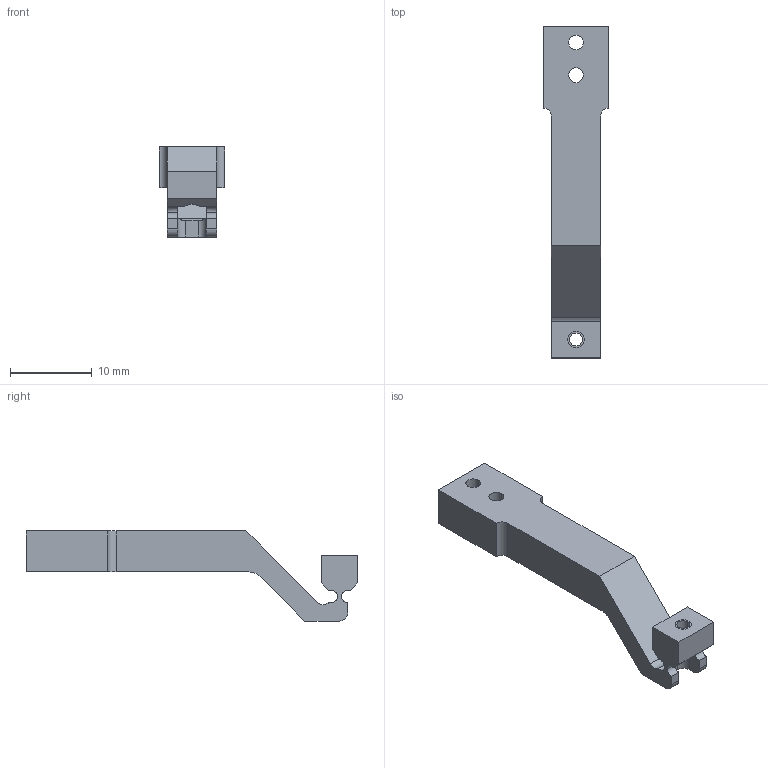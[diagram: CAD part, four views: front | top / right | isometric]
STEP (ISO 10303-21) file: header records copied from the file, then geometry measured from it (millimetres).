
FILE_DESCRIPTION(/* description */ ('VariCAD 2010-3.03 AP-214'),/* implementation_level */ '2;1');
FILE_NAME(/* name */ '0353-19-47',/* time_stamp */ '2011-01-17T15:06:12-07:00',/* author */ (''),/* organization */ (''),/* preprocessor_version */ 'ST-DEVELOPER v12',/* originating_system */ 'VariCAD 2010-3.03; kernel version (20100102)',/* authorisation */ '');
FILE_SCHEMA (('AUTOMOTIVE_DESIGN'));
Length unit declared in the file: millimetre
Products named in the file (1): Part
Bounding box: 8 x 40.5 x 11 mm (x, y, z)
Volume: 1078.3 mm3; surface area: 1209.4 mm2
Topology: 2 solids, 2 shells, 68 faces, 195 edges, 128 vertices
Faces by surface type: cylinder 36, plane 30, cone 2
Entity records: 2824 total; most frequent: CARTESIAN_POINT 472, DIRECTION 391, ORIENTED_EDGE 390, EDGE_CURVE 195, AXIS2_PLACEMENT_3D 139, VERTEX_POINT 128, LINE 113, VECTOR 113
